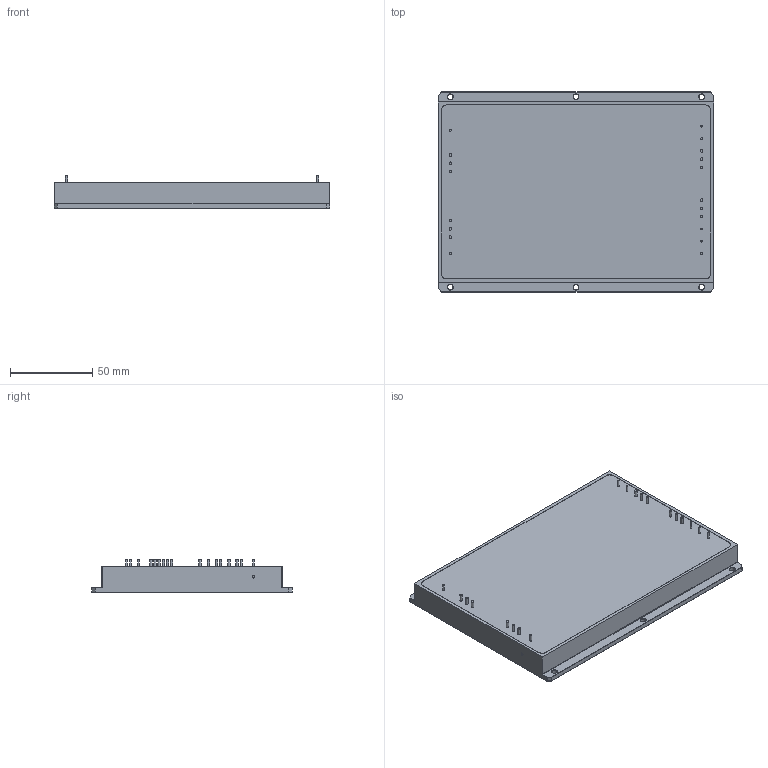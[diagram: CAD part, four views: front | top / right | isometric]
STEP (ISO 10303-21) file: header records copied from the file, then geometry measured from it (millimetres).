
FILE_DESCRIPTION(('STEP AP214'), '1');
FILE_NAME('TESZ500-S_flange', '', ('UNSPECIFIED'), ('UNSPECIFIED'), 'ASCON STEP Converter 1.3', 'ASCON Math Kernel', '');
FILE_SCHEMA(('AUTOMOTIVE_DESIGN { 1 0 10303 214 3 1 1}'));
Length unit declared in the file: millimetre
Products named in the file (1): TESZ500-S_flange
Bounding box: 168 x 122 x 20 mm (x, y, z)
Volume: 298158 mm3; surface area: 50386.9 mm2
Topology: 1 solids, 1 shells, 912 faces, 2546 edges, 1664 vertices
Faces by surface type: cylinder 718, plane 162, torus 16, sphere 16
Full cylindrical faces by diameter (mm): 1 x7, 1.5 x13, 3.2 x6
Entity records: 37056 total; most frequent: DIRECTION 5770, CARTESIAN_POINT 5069, ORIENTED_EDGE 4984, EDGE_CURVE 2492, AXIS2_PLACEMENT_3D 2365, VERTEX_POINT 1664, CIRCLE 1452, LINE 1040
